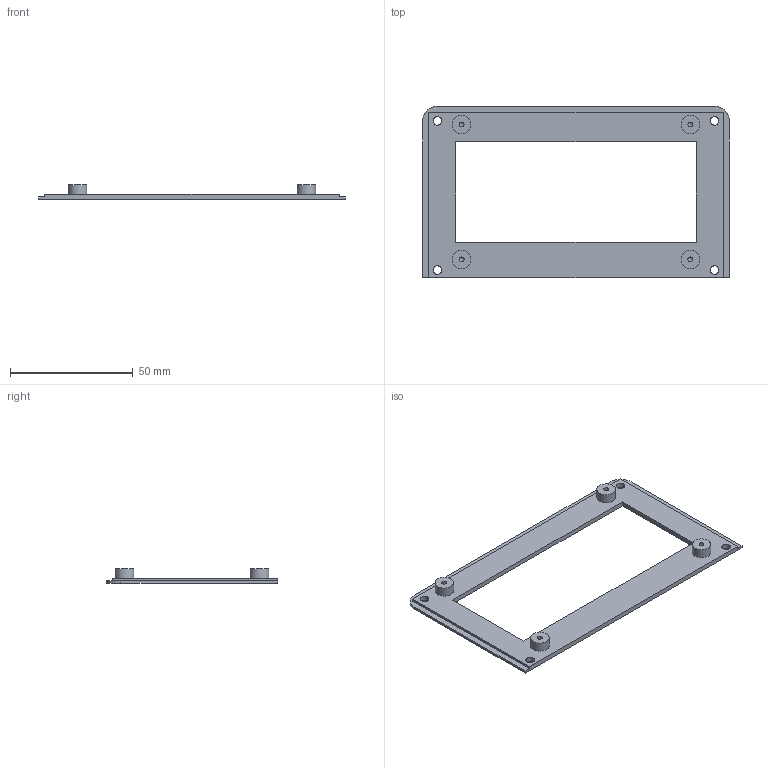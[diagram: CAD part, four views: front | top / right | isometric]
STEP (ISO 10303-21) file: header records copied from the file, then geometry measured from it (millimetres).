
FILE_DESCRIPTION(/* description */ (''),/* implementation_level */ '2;1');
FILE_NAME(/* name */ 'Z:\3D Drucker\Thomas\Spritzenpumpe\Deckel_oben.stp',/* time_stamp */ '2018-09-27T12:44:13+02:00',/* author */ ('Holm'),/* organization */ (''),/* preprocessor_version */ 'ST-DEVELOPER v16.13',/* originating_system */ 'Autodesk Inventor 2018',/* authorisation */ '');
FILE_SCHEMA (('AUTOMOTIVE_DESIGN { 1 0 10303 214 3 1 1 }'));
Length unit declared in the file: millimetre
Products named in the file (1): Deckel_oben
Bounding box: 125 x 70 x 6 mm (x, y, z)
Volume: 9394.6 mm3; surface area: 11244.6 mm2
Topology: 1 solids, 1 shells, 36 faces, 98 edges, 76 vertices
Faces by surface type: plane 18, cylinder 14, cone 4
Full cylindrical faces by diameter (mm): 2 x4, 3.5 x4, 7.6 x4
Entity records: 1062 total; most frequent: DIRECTION 176, CARTESIAN_POINT 175, ORIENTED_EDGE 132, AXIS2_PLACEMENT_3D 69, EDGE_LOOP 66, EDGE_CURVE 66, VERTEX_POINT 52, LINE 38
